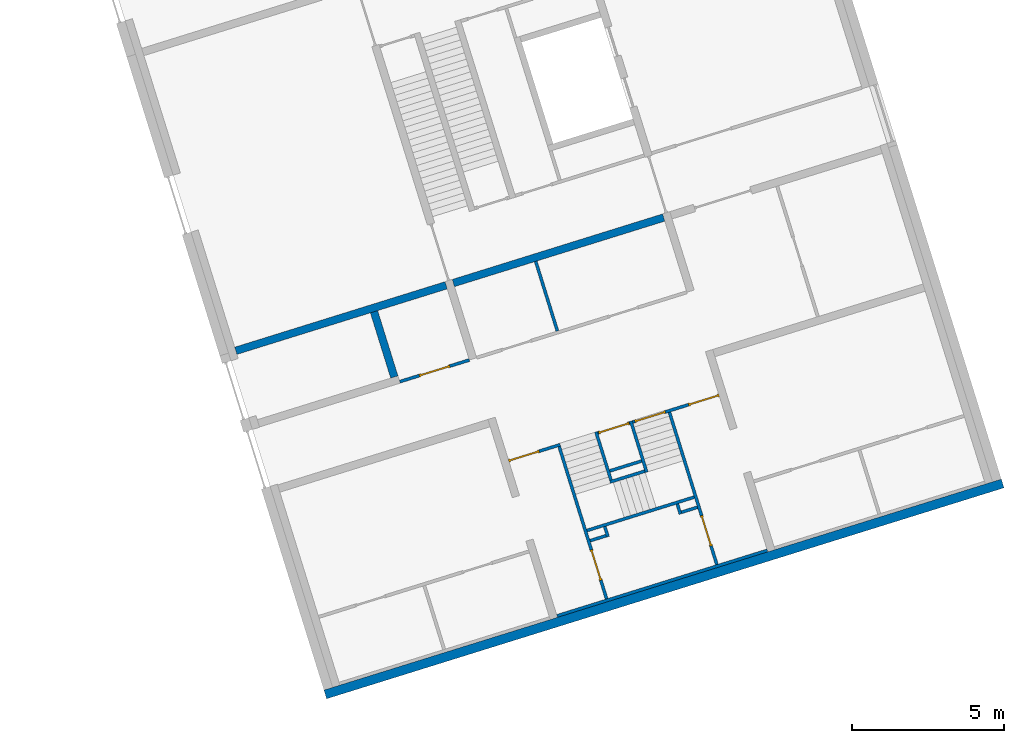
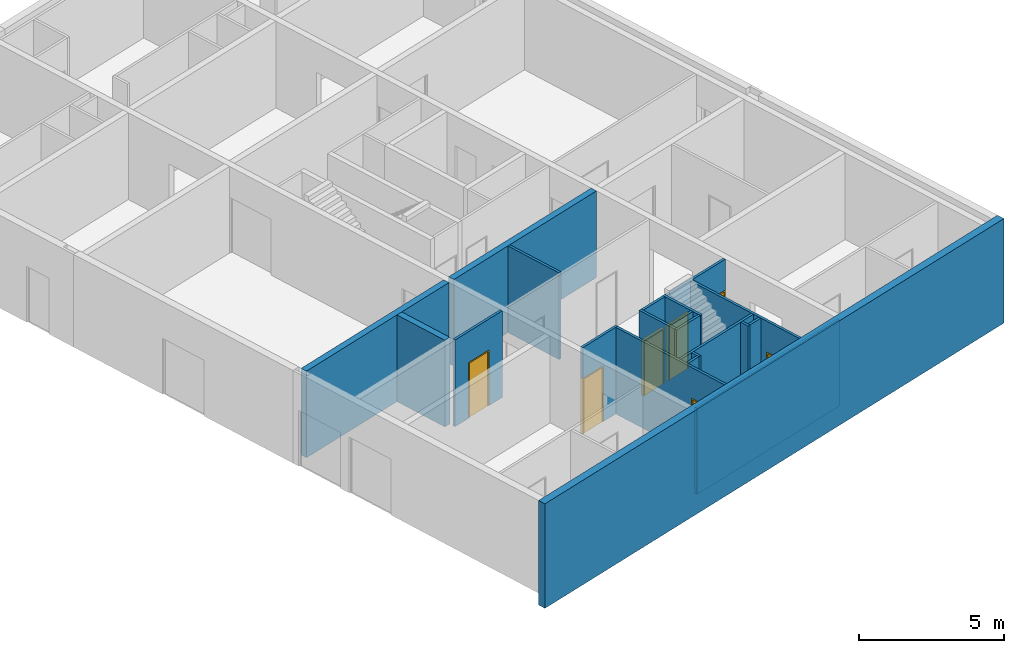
# One storey, part 2 of 10: 21 walls, 7 doors, 9 openings.
"""IFC4 building model written with IfcOpenShell, lengths in metres."""

from ifc_helpers import new_model, entity, si_unit, converted_unit, direction, frame, origin, place, context, subcontext, project, spatial, indexed_curve, outline, extrude, polygons, source, transform, mapped, material, constituent, constituent_set, type_object, type_shapes, element, fill, save


model = new_model("IFC4")

# Units and contexts
model_context = context("Model", 3, precision=1e-05, world=origin(), true_north=direction((6.12323399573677e-17, 1.0)))
body_context = subcontext(model_context, "Body", "Model", "MODEL_VIEW")
ifc_project = project(units=[si_unit("LENGTHUNIT", "METRE"), si_unit("AREAUNIT", "SQUARE_METRE"), converted_unit("PLANEANGLEUNIT", "DEGREE", entity("IfcPlaneAngleMeasure", 0.0174532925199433), si_unit("PLANEANGLEUNIT", "RADIAN"), dimensions=[0, 0, 0, 0, 0, 0, 0]), si_unit("VOLUMEUNIT", "CUBIC_METRE")], contexts=[model_context])

# Site, building, storey
site_placement = place(None, frame((13.1347999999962, 11.9886000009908, 0.0), z_axis=(0.0, 0.0, 1.0), x_axis=(0.954770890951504, 0.297342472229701, 0.0)))
site = spatial("IfcSite", under=ifc_project, at=site_placement, Name="Schiehaven", CompositionType="ELEMENT")
building_placement = place(site_placement, origin())
building = spatial("IfcBuilding", under=site, at=building_placement, Name="VORM huis", CompositionType="ELEMENT")
storey_placement = place(building_placement, origin())
storey = spatial("IfcBuildingStorey", under=building, at=storey_placement, Name="00 begane grond", CompositionType="ELEMENT", Elevation=0.0)

# Walls
ifc_material_1 = material(Name="beton_gewapend_ihw", Category="Miscellaneous")
wall_type_1 = type_object("IfcWallType", Name="Basic Wall:28_WA_skelet_wand 250mm_gen", PredefinedType="STANDARD")
wall_1_placement = place(storey_placement, frame((65.1250000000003, 11.8999999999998, 0.0)))
element("IfcWall", 1, at=wall_1_placement, inside=storey, type_object=wall_type_1, material=ifc_material_1, Name="Constructieve wand", ObjectType="Wand", PredefinedType="NOTDEFINED", context=body_context, shape_type="SweptSolid", body=[
    extrude(outline(indexed_curve([(7.24999999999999, 0.124999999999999), (1.69940164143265e-15, 0.125), (-1.69940164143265e-15, -0.125), (7.24999999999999, -0.125000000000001), (7.24999999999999, 0.124999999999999)], self_intersect=False)), origin(), (0.0, 0.0, 1.0), 3.65),
])
ifc_material_2 = material(Name="ntb_ntb_ntb", Category="Miscellaneous")
wall_type_2 = type_object("IfcWallType", Name="Basic Wall:21_WA_gevel_binnenspouwwand 100mm_gen", PredefinedType="STANDARD")
wall_2_placement = place(storey_placement, frame((65.1250000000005, 0.424999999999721, 0.0)))
element("IfcWall", 2, at=wall_2_placement, inside=storey, type_object=wall_type_2, material=ifc_material_2, Name="Binnenspouwblad", ObjectType="Wand", PredefinedType="NOTDEFINED", context=body_context, shape_type="SweptSolid", body=[
    extrude(outline(indexed_curve([(7.24999999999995, 0.05), (9.8574233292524e-16, 0.05), (-9.8574233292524e-16, -0.05), (7.24999999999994, -0.05), (7.24999999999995, 0.05)], self_intersect=False)), origin(), (0.0, 0.0, 1.0), 3.65),
])
wall_type_3 = type_object("IfcWallType", Name="Basic Wall: 300mm_gen", PredefinedType="STANDARD")
wall_3_placement = place(storey_placement, frame((57.0750000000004, 0.224999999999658, -0.5)))
element("IfcWall", 3, at=wall_3_placement, inside=storey, type_object=wall_type_3, material=ifc_material_2, Name="Gevelwand", ObjectType="Wand", PredefinedType="NOTDEFINED", context=body_context, shape_type="SweptSolid", body=[
    extrude(outline(indexed_curve([(23.3500000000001, 0.15), (2.24820162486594e-15, 0.15), (-2.24820162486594e-15, -0.15), (23.35, -0.15), (23.3500000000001, 0.15)], self_intersect=False)), origin(), (0.0, 0.0, 1.0), 4.4),
])
wall_type_4 = type_object("IfcWallType", Name="Basic Wall:22_WA_afbouw_binnenwand 250mm_gen", PredefinedType="STANDARD")
wall_4_placement = place(storey_placement, frame((64.8750000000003, 11.8999999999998, 0.0), z_axis=(0.0, 0.0, 1.0), x_axis=(-1.0, 0.0, 0.0)))
element("IfcWall", 4, at=wall_4_placement, inside=storey, type_object=wall_type_4, material=ifc_material_2, Name="Binnenwand", ObjectType="Wand", PredefinedType="NOTDEFINED", context=body_context, shape_type="SweptSolid", body=[
    extrude(outline(indexed_curve([(7.24999999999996, 0.124999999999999), (1.80881749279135e-15, 0.125), (-1.80881749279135e-15, -0.125), (7.24999999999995, -0.125000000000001), (7.24999999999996, 0.124999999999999)], self_intersect=False)), origin(), (0.0, 0.0, 1.0), 3.65),
])
wall_5_placement = place(storey_placement, frame((62.3500000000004, 11.7749999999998, 0.0), z_axis=(0.0, 0.0, 1.0), x_axis=(0.0, -1.0, 0.0)))
element("IfcWall", 5, at=wall_5_placement, inside=storey, type_object=wall_type_4, material=ifc_material_2, Name="Binnenwand", ObjectType="Wand", PredefinedType="NOTDEFINED", context=body_context, shape_type="SweptSolid", body=[
    extrude(outline(indexed_curve([(2.24999999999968, 0.124999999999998), (0.0, 0.124999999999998), (0.0, -0.124999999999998), (2.24999999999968, -0.124999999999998), (2.24999999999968, 0.124999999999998)], self_intersect=False)), origin(), (0.0, 0.0, 1.0), 3.65),
])
wall_type_5 = type_object("IfcWallType", Name="Basic Wall:22_WA_afbouw_binnenwand 100mm_gen", PredefinedType="STANDARD")
wall_6_placement = place(storey_placement, frame((66.9000000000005, 2.81500000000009, 0.0)))
element("IfcWall", 6, at=wall_6_placement, inside=storey, type_object=wall_type_5, material=ifc_material_2, Name="Binnenwand", ObjectType="Wand", PredefinedType="NOTDEFINED", context=body_context, shape_type="SweptSolid", body=[
    extrude(outline(indexed_curve([(3.69999999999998, 0.05), (-1.46499921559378e-16, 0.05), (1.46499921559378e-16, -0.05), (3.69999999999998, -0.05), (3.69999999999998, 0.05)], self_intersect=False)), origin(), (0.0, 0.0, 1.0), 3.65),
])
wall_7_placement = place(storey_placement, frame((70.0, 2.41500000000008, 0.0), z_axis=(0.0, 0.0, 1.0), x_axis=(0.0, 1.0, 0.0)))
element("IfcWall", 7, at=wall_7_placement, inside=storey, type_object=wall_type_5, material=ifc_material_2, Name="Binnenwand", ObjectType="Wand", PredefinedType="NOTDEFINED", context=body_context, shape_type="SweptSolid", body=[
    extrude(outline(indexed_curve([(0.35, 0.0499999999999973), (0.0, 0.0499999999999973), (0.0, -0.0499999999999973), (0.35, -0.0499999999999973), (0.35, 0.0499999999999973)], self_intersect=False)), origin(), (0.0, 0.0, 1.0), 3.65),
])
wall_8_placement = place(storey_placement, frame((67.5000000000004, 2.41500000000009, 0.0), z_axis=(0.0, 0.0, 1.0), x_axis=(0.0, 1.0, 0.0)))
element("IfcWall", 8, at=wall_8_placement, inside=storey, type_object=wall_type_5, material=ifc_material_2, Name="Binnenwand", ObjectType="Wand", PredefinedType="NOTDEFINED", context=body_context, shape_type="SweptSolid", body=[
    extrude(outline(indexed_curve([(0.349999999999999, 0.0499999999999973), (0.0, 0.0499999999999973), (0.0, -0.0499999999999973), (0.349999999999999, -0.0499999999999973), (0.349999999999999, 0.0499999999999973)], self_intersect=False)), origin(), (0.0, 0.0, 1.0), 3.65),
])

# Wall, opening, door
wall_9_placement = place(storey_placement, frame((69.3000000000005, 5.77500000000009, 0.0), z_axis=(0.0, 0.0, 1.0), x_axis=(-1.0, 0.0, 0.0)))
wall_9 = element("IfcWall", 9, at=wall_9_placement, inside=storey, type_object=wall_type_5, material=ifc_material_2, Name="Binnenwand", ObjectType="Wand", PredefinedType="NOTDEFINED", context=body_context, shape_type="Tessellation", body=[
    polygons([(1.09999999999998, -0.0499999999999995, 3.65), (5.05822449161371e-17, -0.0499999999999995, 3.65), (5.05822449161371e-17, -0.0499999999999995, 0.0), (0.025000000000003, -0.0499999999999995, 0.0), (0.025000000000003, -0.0499999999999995, 2.34999999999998), (1.07500000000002, -0.0499999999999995, 2.34999999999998), (1.07500000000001, -0.0499999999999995, 0.0), (1.09999999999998, -0.0499999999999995, 0.0), (-2.47726017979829e-16, 0.0500000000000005, 3.65), (1.09999999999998, 0.0500000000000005, 3.65), (1.09999999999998, 0.0500000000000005, 0.0), (1.07500000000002, 0.0500000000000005, 0.0), (1.07500000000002, 0.0500000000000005, 2.34999999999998), (0.0250000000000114, 0.0500000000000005, 2.34999999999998), (0.0250000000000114, 0.0500000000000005, 0.0), (-2.47726017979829e-16, 0.0500000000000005, 0.0)], [[[1, 2, 3, 4, 5, 6, 7, 8]], [[9, 10, 11, 12, 13, 14, 15, 16]], [[3, 16, 15, 4]], [[2, 1, 10, 9]], [[1, 8, 11, 10]], [[3, 2, 9, 16]], [[14, 5, 4, 15]], [[5, 14, 13, 6]], [[6, 13, 12, 7]], [[11, 8, 7, 12]]], closed=True),
])
opening_1_placement = place(wall_9_placement, frame((1.07500000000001, 0.0499999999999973, 0.0)))
opening_1 = element("IfcOpeningElement", 10, at=opening_1_placement, cuts=wall_9, Name="Binnendeur", PredefinedType="OPENING", context=body_context, shape_type="SweptSolid", body=[
    extrude(outline(indexed_curve([(2.34999999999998, 1.05), (0.0, 1.05), (0.0, 0.0), (2.34999999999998, 0.0), (2.34999999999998, 1.05)], self_intersect=False)), frame((0.0, 0.0, 0.0), z_axis=(0.0, -1.0, 0.0), x_axis=(0.0, 0.0, 1.0)), (0.0, 0.0, 1.0), 0.1),
])
ifc_material_3 = material(Name="PD_a_binnenwandopeningen", Category="Miscellaneous")
ifc_constituent_1 = constituent(ifc_material_3, Name="PD_a_binnenwandopeningen", Category="Miscellaneous")
ifc_material_4 = material(Name="metaal_aluminium_ntb", Category="Miscellaneous")
ifc_constituent_2 = constituent(ifc_material_4, Name="metaal_aluminium_ntb", Category="Miscellaneous")
ifc_constituent_set_1 = constituent_set(constituents=[ifc_constituent_1, ifc_constituent_2])
ifc_constituent_3 = constituent(ifc_material_3, Name="PD_a_binnenwandopeningen", Category="Miscellaneous")
ifc_constituent_4 = constituent(ifc_material_4, Name="Panel", Category="Miscellaneous")
ifc_constituent_set_2 = constituent_set(constituents=[ifc_constituent_3, ifc_constituent_4])
door_type_1 = type_object("IfcDoorType", Name="32_DO_binnendeur enkel:binnendeur", OperationType="REVOLVING", PredefinedType="DOOR", material=ifc_constituent_set_2)
shared_shape_1 = source(origin(), body_context, "Body", "SweptSolid", [
    extrude(outline(indexed_curve([(-1.16249999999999, -0.525000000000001), (1.18749999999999, -0.525), (1.18749999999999, 0.525), (-1.16249999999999, 0.525), (-1.16249999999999, 0.475), (1.13749999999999, 0.475), (1.13749999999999, -0.475), (-1.16249999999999, -0.475), (-1.16249999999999, -0.525000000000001)], self_intersect=False)), frame((0.525000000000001, 0.0, 1.16249999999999), z_axis=(0.0, 1.0, 0.0), x_axis=(0.0, 0.0, 1.0)), (0.0, 0.0, 1.0), 0.1),
    extrude(outline(indexed_curve([(-0.025, -0.475), (0.025, -0.475), (0.025, 0.475), (-0.025, 0.475), (-0.025, -0.475)], self_intersect=False)), frame((0.525000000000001, 0.0499999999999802, 0.0), z_axis=(0.0, 0.0, 1.0), x_axis=(0.0, 1.0, 0.0)), (0.0, 0.0, 1.0), 2.29999999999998),
])
type_shapes(door_type_1, [shared_shape_1])
door_1_placement = place(opening_1_placement, frame((0.0, 0.0, 0.0), z_axis=(0.0, 0.0, 1.0), x_axis=(-1.0, 0.0, 0.0)))
door_1 = element("IfcDoor", 11, at=door_1_placement, inside=storey, type_object=door_type_1, material=ifc_constituent_set_1, Name="Binnendeur", ObjectType="Deur", OperationType="REVOLVING", OverallHeight=2.34999999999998, OverallWidth=1.05, PredefinedType="DOOR", context=body_context, shape_type="MappedRepresentation", body=[
    mapped(shared_shape_1, transform((0.0, 0.0, 0.0), scale=1.0)),
])
fill(opening_1, door_1)

# Walls
wall_10_placement = place(storey_placement, frame((69.3500000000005, 4.06500000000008, 0.0), z_axis=(0.0, 0.0, 1.0), x_axis=(0.0, 1.0, 0.0)))
element("IfcWall", 12, at=wall_10_placement, inside=storey, type_object=wall_type_5, material=ifc_material_2, Name="Binnenwand", ObjectType="Wand", PredefinedType="NOTDEFINED", context=body_context, shape_type="SweptSolid", body=[
    extrude(outline(indexed_curve([(1.76000000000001, 0.0499999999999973), (0.0, 0.0499999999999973), (0.0, -0.0499999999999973), (1.76000000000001, -0.0499999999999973), (1.76000000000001, 0.0499999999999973)], self_intersect=False)), origin(), (0.0, 0.0, 1.0), 3.65),
])
wall_11_placement = place(storey_placement, frame((66.9000000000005, 2.46500000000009, 0.0)))
element("IfcWall", 13, at=wall_11_placement, inside=storey, type_object=wall_type_5, material=ifc_material_2, Name="Binnenwand", ObjectType="Wand", PredefinedType="NOTDEFINED", context=body_context, shape_type="SweptSolid", body=[
    extrude(outline(indexed_curve([(0.549999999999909, 0.0500000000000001), (-1.56414140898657e-16, 0.05), (1.56414140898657e-16, -0.0499999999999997), (0.54999999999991, -0.0499999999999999), (0.549999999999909, 0.0500000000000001)], self_intersect=False)), origin(), (0.0, 0.0, 1.0), 3.65),
])

# Wall, opening, door
wall_12_placement = place(storey_placement, frame((65.1250000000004, 5.77500000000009, 0.0)))
wall_12 = element("IfcWall", 14, at=wall_12_placement, inside=storey, type_object=wall_type_5, material=ifc_material_2, Name="Binnenwand", ObjectType="Wand", PredefinedType="NOTDEFINED", context=body_context, shape_type="Tessellation", body=[
    polygons([(1.77500000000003, -0.0499999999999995, 3.65), (1.67500000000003, -0.0500000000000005, 3.65), (-1.22633560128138e-14, -0.0499999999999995, 3.65), (-1.22633560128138e-14, -0.0499999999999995, 2.34999999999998), (1.04999999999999, -0.0500000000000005, 2.34999999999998), (1.04999999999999, -0.0500000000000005, 0.0), (1.67500000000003, -0.0500000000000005, 0.0), (1.77500000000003, -0.0499999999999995, 0.0), (-1.26288807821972e-14, 0.0500000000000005, 3.65), (1.77500000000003, 0.0500000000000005, 3.65), (1.77500000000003, 0.0500000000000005, 0.0), (1.04999999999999, 0.0499999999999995, 0.0), (1.04999999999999, 0.0499999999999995, 2.34999999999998), (-1.26288807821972e-14, 0.0500000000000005, 2.34999999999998)], [[[1, 2, 3, 4, 5, 6, 7, 8]], [[9, 10, 11, 12, 13, 14]], [[11, 8, 7, 6, 12]], [[3, 2, 1, 10, 9]], [[3, 9, 14, 4]], [[1, 8, 11, 10]], [[5, 13, 12, 6]], [[13, 5, 4, 14]]], closed=True),
])
opening_2_placement = place(wall_12_placement, frame((0.0, -0.05, 0.0)))
opening_2 = element("IfcOpeningElement", 15, at=opening_2_placement, cuts=wall_12, Name="Binnendeur", PredefinedType="OPENING", context=body_context, shape_type="SweptSolid", body=[
    extrude(outline(indexed_curve([(2.34999999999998, 1.05), (0.0, 1.05), (0.0, 1.30022810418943e-31), (2.34999999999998, 1.30022810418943e-31), (2.34999999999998, 1.05)], self_intersect=False)), frame((0.0, 0.0, 0.0), z_axis=(0.0, 1.0, 0.0), x_axis=(0.0, 0.0, 1.0)), (0.0, 0.0, 1.0), 0.1),
])
ifc_constituent_5 = constituent(ifc_material_3, Name="PD_a_binnenwandopeningen", Category="Miscellaneous")
ifc_constituent_6 = constituent(ifc_material_4, Name="metaal_aluminium_ntb", Category="Miscellaneous")
ifc_constituent_set_3 = constituent_set(constituents=[ifc_constituent_5, ifc_constituent_6])
door_2_placement = place(opening_2_placement, origin())
door_2 = element("IfcDoor", 16, at=door_2_placement, inside=storey, type_object=door_type_1, material=ifc_constituent_set_3, Name="Binnendeur", ObjectType="Deur", OperationType="REVOLVING", OverallHeight=2.34999999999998, OverallWidth=1.05, PredefinedType="DOOR", context=body_context, shape_type="MappedRepresentation", body=[
    mapped(shared_shape_1, transform((0.0, 0.0, 0.0), scale=1.0)),
])
fill(opening_2, door_2)

# Wall, openings, door
wall_13_placement = place(storey_placement, frame((66.8500000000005, 5.72500000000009, 0.0), z_axis=(0.0, 0.0, 1.0), x_axis=(0.0, -1.0, 0.0)))
wall_13 = element("IfcWall", 17, at=wall_13_placement, inside=storey, type_object=wall_type_5, material=ifc_material_2, Name="Binnenwand", ObjectType="Wand", PredefinedType="NOTDEFINED", context=body_context, shape_type="Tessellation", body=[
    polygons([(0.0, -0.050000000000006, 0.0), (3.56, -0.050000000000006, 0.0), (3.56, -0.050000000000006, 2.34999999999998), (4.61, -0.050000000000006, 2.34999999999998), (4.61, -0.050000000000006, 0.0), (5.25000000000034, -0.050000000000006, 0.0), (5.25000000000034, -0.050000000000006, 3.65), (0.0, -0.050000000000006, 3.65), (3.56, 0.0499999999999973, 2.34999999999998), (3.56, 0.0499999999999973, 0.0), (3.31, 0.0499999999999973, 0.0), (3.21, 0.0499999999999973, 0.0), (2.96, 0.0499999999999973, 0.0), (2.86, 0.0499999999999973, 0.0), (0.0, 0.0499999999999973, 0.0), (0.0, 0.0499999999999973, 3.65), (2.86, 0.0499999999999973, 3.65), (2.96, 0.0499999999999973, 3.65), (3.21, 0.0499999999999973, 3.65), (3.31, 0.0499999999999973, 3.65), (5.25000000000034, 0.0499999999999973, 3.65), (5.25000000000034, 0.0499999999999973, 0.0), (4.61, 0.0499999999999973, 0.0), (4.61, 0.0499999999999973, 2.34999999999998)], [[[1, 2, 3, 4, 5, 6, 7, 8]], [[9, 10, 11, 12, 13, 14, 15, 16, 17, 18, 19, 20, 21, 22, 23, 24]], [[15, 14, 13, 12, 11, 10, 2, 1]], [[7, 6, 22, 21]], [[8, 7, 21, 20, 19, 18, 17, 16]], [[1, 8, 16, 15]], [[5, 4, 24, 23]], [[3, 2, 10, 9]], [[4, 3, 9, 24]], [[23, 22, 6, 5]]], closed=True),
])
opening_3_placement = place(wall_13_placement, frame((4.61, 0.050000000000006, 0.0)))
opening_3 = element("IfcOpeningElement", 18, at=opening_3_placement, cuts=wall_13, Name="Binnendeur", PredefinedType="OPENING", context=body_context, shape_type="SweptSolid", body=[
    extrude(outline(indexed_curve([(2.34999999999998, 0.0), (2.34999999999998, 1.05), (0.0, 1.05), (0.0, 0.0), (2.34999999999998, 0.0)], self_intersect=False)), frame((0.0, 0.0, 0.0), z_axis=(0.0, -1.0, 0.0), x_axis=(0.0, 0.0, 1.0)), (0.0, 0.0, 1.0), 0.1),
])
opening_4_placement = place(wall_13_placement, frame((5.72500000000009, -66.8500000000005, 0.0), z_axis=(0.0, 0.0, 1.0), x_axis=(0.0, 1.0, 0.0)))
element("IfcOpeningElement", 19, at=opening_4_placement, cuts=wall_13, Name="Binnendeur", PredefinedType="OPENING", context=body_context, shape_type="SweptSolid", body=[
    extrude(outline(indexed_curve([(-1.17499999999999, -0.525000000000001), (1.17499999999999, -0.525000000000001), (1.17499999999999, 0.525), (-1.17499999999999, 0.525), (-1.17499999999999, -0.525000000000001)], self_intersect=False)), frame((65.3760000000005, 1.64000000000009, 1.17499999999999), z_axis=(1.0, 0.0, 0.0), x_axis=(0.0, 0.0, -1.0)), (0.0, 0.0, 1.0), 3.048),
])
ifc_constituent_7 = constituent(ifc_material_3, Name="PD_a_binnenwandopeningen", Category="Miscellaneous")
ifc_constituent_8 = constituent(ifc_material_4, Name="metaal_aluminium_ntb", Category="Miscellaneous")
ifc_constituent_set_4 = constituent_set(constituents=[ifc_constituent_7, ifc_constituent_8])
ifc_constituent_9 = constituent(ifc_material_3, Name="PD_a_binnenwandopeningen", Category="Miscellaneous")
ifc_constituent_10 = constituent(ifc_material_4, Name="Panel", Category="Miscellaneous")
ifc_constituent_set_5 = constituent_set(constituents=[ifc_constituent_9, ifc_constituent_10])
door_type_2 = type_object("IfcDoorType", Name="32_DO_binnendeur enkel:binnendeur", OperationType="REVOLVING", PredefinedType="DOOR", material=ifc_constituent_set_5)
shared_shape_2 = source(origin(), body_context, "Body", "SweptSolid", [
    extrude(outline(indexed_curve([(0.475, -1.16249999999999), (0.525, -1.16249999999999), (0.525, 1.18749999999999), (-0.525, 1.18749999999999), (-0.525, -1.16249999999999), (-0.475, -1.16249999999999), (-0.475, 1.13749999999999), (0.475, 1.13749999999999), (0.475, -1.16249999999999)], self_intersect=False)), frame((0.525000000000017, 0.100000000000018, 1.16249999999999), z_axis=(0.0, -1.0, 0.0), x_axis=(1.0, 0.0, 0.0)), (0.0, 0.0, 1.0), 0.1),
    extrude(outline(indexed_curve([(-0.475, -0.025), (0.475, -0.025), (0.475, 0.025), (-0.475, 0.025), (-0.475, -0.025)], self_intersect=False)), frame((0.525000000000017, 0.0499999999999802, 0.0)), (0.0, 0.0, 1.0), 2.29999999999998),
])
type_shapes(door_type_2, [shared_shape_2])
door_3_placement = place(opening_3_placement, frame((0.0, 0.0, 0.0), z_axis=(0.0, 0.0, 1.0), x_axis=(-1.0, 0.0, 0.0)))
door_3 = element("IfcDoor", 20, at=door_3_placement, inside=storey, type_object=door_type_2, material=ifc_constituent_set_4, Name="Binnendeur", ObjectType="Deur", OperationType="REVOLVING", OverallHeight=2.34999999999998, OverallWidth=1.05, PredefinedType="DOOR", context=body_context, shape_type="MappedRepresentation", body=[
    mapped(shared_shape_2, transform((0.0, 0.0, 0.0), scale=1.0)),
])
fill(opening_3, door_3)

# Wall, openings, doors
wall_14_placement = place(storey_placement, frame((72.3750000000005, 5.77500000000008, 0.0), z_axis=(0.0, 0.0, 1.0), x_axis=(-1.0, 0.0, 0.0)))
wall_14 = element("IfcWall", 21, at=wall_14_placement, inside=storey, type_object=wall_type_5, material=ifc_material_2, Name="Binnenwand", ObjectType="Wand", PredefinedType="NOTDEFINED", context=body_context, shape_type="Tessellation", body=[
    polygons([(2.90000000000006, -0.0500000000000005, 2.34999999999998), (2.90000000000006, -0.0500000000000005, 0.0), (2.97500000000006, -0.0500000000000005, 0.0), (2.97500000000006, -0.0500000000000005, 3.65), (-1.17703915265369e-14, -0.0499999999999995, 3.65), (-1.17703915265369e-14, -0.0499999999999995, 2.34999999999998), (1.04999999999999, -0.0500000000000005, 2.34999999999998), (1.04999999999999, -0.0500000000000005, 0.0), (1.85000000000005, -0.0499999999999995, 0.0), (1.85000000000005, -0.0499999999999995, 2.34999999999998), (2.97500000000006, 0.0499999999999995, 0.0), (2.90000000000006, 0.0499999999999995, 0.0), (2.90000000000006, 0.0499999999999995, 2.34999999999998), (1.85000000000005, 0.0500000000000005, 2.34999999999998), (1.85000000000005, 0.0500000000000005, 0.0), (1.77500000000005, 0.0500000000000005, 0.0), (1.67500000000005, 0.0500000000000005, 0.0), (1.04999999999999, 0.0499999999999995, 0.0), (1.04999999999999, 0.0499999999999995, 2.34999999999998), (-1.17170446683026e-14, 0.0500000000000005, 2.34999999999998), (-1.17170446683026e-14, 0.0500000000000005, 3.65), (1.67500000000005, 0.0500000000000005, 3.65), (1.77500000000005, 0.0500000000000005, 3.65), (2.97500000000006, 0.0499999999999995, 3.65)], [[[1, 2, 3, 4, 5, 6, 7, 8, 9, 10]], [[11, 12, 13, 14, 15, 16, 17, 18, 19, 20, 21, 22, 23, 24]], [[9, 8, 18, 17, 16, 15]], [[5, 4, 24, 23, 22, 21]], [[5, 21, 20, 6]], [[7, 19, 18, 8]], [[19, 7, 6, 20]], [[4, 3, 11, 24]], [[15, 14, 10, 9]], [[13, 12, 2, 1]], [[14, 13, 1, 10]], [[3, 2, 12, 11]]], closed=True),
])
opening_5_placement = place(wall_14_placement, frame((1.05, 0.0500000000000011, 0.0)))
opening_5 = element("IfcOpeningElement", 22, at=opening_5_placement, cuts=wall_14, Name="Binnendeur", PredefinedType="OPENING", context=body_context, shape_type="SweptSolid", body=[
    extrude(outline(indexed_curve([(2.34999999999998, 2.97863977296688e-31), (2.34999999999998, 1.05), (0.0, 1.05), (0.0, 2.97863977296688e-31), (2.34999999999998, 2.97863977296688e-31)], self_intersect=False)), frame((0.0, 0.0, 0.0), z_axis=(0.0, -1.0, 0.0), x_axis=(0.0, 0.0, 1.0)), (0.0, 0.0, 1.0), 0.1),
])
opening_6_placement = place(wall_14_placement, frame((2.90000000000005, 0.0500000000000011, 0.0)))
opening_6 = element("IfcOpeningElement", 23, at=opening_6_placement, cuts=wall_14, Name="Binnendeur", PredefinedType="OPENING", context=body_context, shape_type="SweptSolid", body=[
    extrude(outline(indexed_curve([(2.34999999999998, 1.05), (0.0, 1.05), (0.0, 2.97863977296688e-31), (2.34999999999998, 2.97863977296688e-31), (2.34999999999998, 1.05)], self_intersect=False)), frame((0.0, 0.0, 0.0), z_axis=(0.0, -1.0, 0.0), x_axis=(0.0, 0.0, 1.0)), (0.0, 0.0, 1.0), 0.1),
])
ifc_constituent_11 = constituent(ifc_material_3, Name="PD_a_binnenwandopeningen", Category="Miscellaneous")
ifc_constituent_12 = constituent(ifc_material_4, Name="metaal_aluminium_ntb", Category="Miscellaneous")
ifc_constituent_set_6 = constituent_set(constituents=[ifc_constituent_11, ifc_constituent_12])
door_4_placement = place(opening_5_placement, frame((0.0, 0.0, 0.0), z_axis=(0.0, 0.0, 1.0), x_axis=(-1.0, 0.0, 0.0)))
door_4 = element("IfcDoor", 24, at=door_4_placement, inside=storey, type_object=door_type_2, material=ifc_constituent_set_6, Name="Binnendeur", ObjectType="Deur", OperationType="REVOLVING", OverallHeight=2.34999999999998, OverallWidth=1.05, PredefinedType="DOOR", context=body_context, shape_type="MappedRepresentation", body=[
    mapped(shared_shape_2, transform((0.0, 0.0, 0.0), scale=1.0)),
])
fill(opening_5, door_4)
ifc_constituent_13 = constituent(ifc_material_3, Name="PD_a_binnenwandopeningen", Category="Miscellaneous")
ifc_constituent_14 = constituent(ifc_material_4, Name="metaal_aluminium_ntb", Category="Miscellaneous")
ifc_constituent_set_7 = constituent_set(constituents=[ifc_constituent_13, ifc_constituent_14])
door_5_placement = place(opening_6_placement, frame((0.0, 0.0, 0.0), z_axis=(0.0, 0.0, 1.0), x_axis=(-1.0, 0.0, 0.0)))
door_5 = element("IfcDoor", 25, at=door_5_placement, inside=storey, type_object=door_type_1, material=ifc_constituent_set_7, Name="Binnendeur", ObjectType="Deur", OperationType="REVOLVING", OverallHeight=2.34999999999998, OverallWidth=1.05, PredefinedType="DOOR", context=body_context, shape_type="MappedRepresentation", body=[
    mapped(shared_shape_1, transform((0.0, 0.0, 0.0), scale=1.0)),
])
fill(opening_6, door_5)

# Wall, openings, door
wall_15_placement = place(storey_placement, frame((70.6500000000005, 5.72500000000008, 0.0), z_axis=(0.0, 0.0, 1.0), x_axis=(0.0, -1.0, 0.0)))
wall_15 = element("IfcWall", 26, at=wall_15_placement, inside=storey, type_object=wall_type_5, material=ifc_material_2, Name="Binnenwand", ObjectType="Wand", PredefinedType="NOTDEFINED", context=body_context, shape_type="Tessellation", body=[
    polygons([(0.0, -0.0500000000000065, 0.0), (2.86, -0.0500000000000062, 0.0), (2.96, -0.0500000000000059, 0.0), (3.21, -0.0500000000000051, 0.0), (3.31, -0.0500000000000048, 0.0), (3.56, -0.0499999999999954, 0.0), (3.56, -0.0499999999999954, 2.34999999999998), (4.61, -0.0500000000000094, 2.34999999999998), (4.61, -0.0500000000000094, 0.0), (5.25000000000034, -0.0500000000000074, 0.0), (5.25000000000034, -0.0500000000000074, 3.65), (3.31, -0.0500000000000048, 3.65), (3.21, -0.0500000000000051, 3.65), (2.96, -0.0500000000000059, 3.65), (2.86, -0.0500000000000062, 3.65), (0.0, -0.0500000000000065, 3.65), (3.56, 0.0499999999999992, 2.34999999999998), (3.56, 0.0499999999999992, 0.0), (0.0, 0.0499999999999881, 0.0), (0.0, 0.0499999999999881, 3.65), (5.25000000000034, 0.0499999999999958, 3.65), (5.25000000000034, 0.0499999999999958, 0.0), (4.61, 0.0499999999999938, 0.0), (4.61, 0.0499999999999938, 2.34999999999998)], [[[1, 2, 3, 4, 5, 6, 7, 8, 9, 10, 11, 12, 13, 14, 15, 16]], [[17, 18, 19, 20, 21, 22, 23, 24]], [[19, 18, 6, 5, 4, 3, 2, 1]], [[11, 10, 22, 21]], [[16, 15, 14, 13, 12, 11, 21, 20]], [[9, 8, 24, 23]], [[7, 6, 18, 17]], [[8, 7, 17, 24]], [[1, 16, 20, 19]], [[23, 22, 10, 9]]], closed=True),
])
opening_7_placement = place(wall_15_placement, frame((3.56, -0.0499999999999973, 0.0)))
opening_7 = element("IfcOpeningElement", 27, at=opening_7_placement, cuts=wall_15, Name="Binnendeur", PredefinedType="OPENING", context=body_context, shape_type="SweptSolid", body=[
    extrude(outline(indexed_curve([(2.34999999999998, 1.05), (0.0, 1.05), (0.0, 0.0), (2.34999999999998, 0.0), (2.34999999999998, 1.05)], self_intersect=False)), frame((0.0, 0.0, 0.0), z_axis=(0.0, 1.0, 0.0), x_axis=(0.0, 0.0, 1.0)), (0.0, 0.0, 1.0), 0.1),
])
opening_8_placement = place(wall_15_placement, frame((5.72500000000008, -70.6500000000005, 0.0), z_axis=(0.0, 0.0, 1.0), x_axis=(0.0, 1.0, 0.0)))
element("IfcOpeningElement", 28, at=opening_8_placement, cuts=wall_15, Name="Binnendeur", PredefinedType="OPENING", context=body_context, shape_type="SweptSolid", body=[
    extrude(outline(indexed_curve([(-1.17499999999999, -0.525), (1.17499999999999, -0.525000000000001), (1.17499999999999, 0.525000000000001), (-1.17499999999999, 0.525000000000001), (-1.17499999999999, -0.525)], self_intersect=False)), frame((69.0760000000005, 1.64000000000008, 1.17499999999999), z_axis=(1.0, 0.0, 0.0), x_axis=(0.0, 0.0, -1.0)), (0.0, 0.0, 1.0), 3.048),
])
ifc_constituent_15 = constituent(ifc_material_3, Name="PD_a_binnenwandopeningen", Category="Miscellaneous")
ifc_constituent_16 = constituent(ifc_material_4, Name="metaal_aluminium_ntb", Category="Miscellaneous")
ifc_constituent_set_8 = constituent_set(constituents=[ifc_constituent_15, ifc_constituent_16])
door_6_placement = place(opening_7_placement, origin())
door_6 = element("IfcDoor", 29, at=door_6_placement, inside=storey, type_object=door_type_1, material=ifc_constituent_set_8, Name="Binnendeur", ObjectType="Deur", OperationType="REVOLVING", OverallHeight=2.34999999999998, OverallWidth=1.05, PredefinedType="DOOR", context=body_context, shape_type="MappedRepresentation", body=[
    mapped(shared_shape_1, transform((0.0, 0.0, 0.0), scale=1.0)),
])
fill(opening_7, door_6)

# Walls
wall_16_placement = place(storey_placement, frame((68.1000000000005, 4.11500000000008, 0.0)))
element("IfcWall", 30, at=wall_16_placement, inside=storey, type_object=wall_type_5, material=ifc_material_2, Name="Binnenwand", ObjectType="Wand", PredefinedType="NOTDEFINED", context=body_context, shape_type="SweptSolid", body=[
    extrude(outline(indexed_curve([(1.19999999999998, 0.0500000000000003), (-1.46499921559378e-16, 0.05), (1.46499921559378e-16, -0.05), (1.19999999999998, -0.0499999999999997), (1.19999999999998, 0.0500000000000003)], self_intersect=False)), origin(), (0.0, 0.0, 1.0), 3.65),
])
wall_17_placement = place(storey_placement, frame((68.1500000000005, 5.82500000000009, 0.0), z_axis=(0.0, 0.0, 1.0), x_axis=(0.0, -1.0, 0.0)))
element("IfcWall", 31, at=wall_17_placement, inside=storey, type_object=wall_type_5, material=ifc_material_2, Name="Binnenwand", ObjectType="Wand", PredefinedType="NOTDEFINED", context=body_context, shape_type="SweptSolid", body=[
    extrude(outline(indexed_curve([(1.66000000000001, 0.0499999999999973), (0.0, 0.0499999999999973), (0.0, -0.0499999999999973), (1.66000000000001, -0.0499999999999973), (1.66000000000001, 0.0499999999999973)], self_intersect=False)), origin(), (0.0, 0.0, 1.0), 3.65),
])
wall_18_placement = place(storey_placement, frame((68.2000000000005, 4.46500000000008, 0.0)))
element("IfcWall", 32, at=wall_18_placement, inside=storey, type_object=wall_type_5, material=ifc_material_2, Name="Binnenwand", ObjectType="Wand", PredefinedType="NOTDEFINED", context=body_context, shape_type="SweptSolid", body=[
    extrude(outline(indexed_curve([(1.09999999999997, 0.05), (-1.46499921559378e-16, 0.05), (1.46499921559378e-16, -0.05), (1.09999999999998, -0.05), (1.09999999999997, 0.05)], self_intersect=False)), origin(), (0.0, 0.0, 1.0), 3.65),
])
wall_19_placement = place(storey_placement, frame((70.0500000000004, 2.46500000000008, 0.0)))
element("IfcWall", 33, at=wall_19_placement, inside=storey, type_object=wall_type_5, material=ifc_material_2, Name="Binnenwand", ObjectType="Wand", PredefinedType="NOTDEFINED", context=body_context, shape_type="SweptSolid", body=[
    extrude(outline(indexed_curve([(0.550000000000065, 0.0500000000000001), (-1.56414140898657e-16, 0.05), (1.56414140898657e-16, -0.05), (0.550000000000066, -0.0499999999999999), (0.550000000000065, 0.0500000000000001)], self_intersect=False)), origin(), (0.0, 0.0, 1.0), 3.65),
])
wall_20_placement = place(storey_placement, frame((67.9250000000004, 9.37500000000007, 0.0), z_axis=(0.0, 0.0, 1.0), x_axis=(0.0, 1.0, 0.0)))
element("IfcWall", 34, at=wall_20_placement, inside=storey, type_object=wall_type_5, material=ifc_material_2, Name="Binnenwand", ObjectType="Wand", PredefinedType="NOTDEFINED", context=body_context, shape_type="SweptSolid", body=[
    extrude(outline(indexed_curve([(2.39999999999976, 0.0499999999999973), (0.0, 0.0499999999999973), (0.0, -0.0499999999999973), (2.39999999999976, -0.0499999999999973), (2.39999999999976, 0.0499999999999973)], self_intersect=False)), origin(), (0.0, 0.0, 1.0), 3.65),
])

# Wall, opening, door
wall_21_placement = place(storey_placement, frame((62.4750000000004, 9.32500000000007, 0.0)))
wall_21 = element("IfcWall", 35, at=wall_21_placement, inside=storey, type_object=wall_type_5, material=ifc_material_2, Name="Binnenwand", ObjectType="Wand", PredefinedType="NOTDEFINED", context=body_context, shape_type="Tessellation", body=[
    polygons([(1.72499999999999, -0.0499999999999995, 2.34999999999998), (1.72499999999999, -0.0499999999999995, 0.0), (2.39999999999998, -0.0500000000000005, 0.0), (2.39999999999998, -0.0500000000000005, 3.65), (1.25981559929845e-15, -0.0500000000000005, 3.65), (1.25981559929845e-15, -0.0500000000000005, 0.0), (0.674999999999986, -0.0500000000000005, 0.0), (0.674999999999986, -0.0500000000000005, 2.34999999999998), (2.39999999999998, 0.0499999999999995, 0.0), (1.72499999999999, 0.0499999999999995, 0.0), (1.72499999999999, 0.0499999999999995, 2.34999999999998), (0.674999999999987, 0.0499999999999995, 2.34999999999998), (0.674999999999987, 0.0499999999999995, 0.0), (1.46020039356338e-15, 0.0499999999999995, 0.0), (1.46020039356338e-15, 0.0499999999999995, 3.65), (2.39999999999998, 0.0499999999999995, 3.65)], [[[1, 2, 3, 4, 5, 6, 7, 8]], [[9, 10, 11, 12, 13, 14, 15, 16]], [[7, 6, 14, 13]], [[4, 3, 9, 16]], [[5, 4, 16, 15]], [[6, 5, 15, 14]], [[13, 12, 8, 7]], [[11, 10, 2, 1]], [[12, 11, 1, 8]], [[3, 2, 10, 9]]], closed=True),
])
opening_9_placement = place(wall_21_placement, frame((1.725, 0.0500000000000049, 0.0)))
opening_9 = element("IfcOpeningElement", 36, at=opening_9_placement, cuts=wall_21, Name="Binnendeur", PredefinedType="OPENING", context=body_context, shape_type="SweptSolid", body=[
    extrude(outline(indexed_curve([(2.34999999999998, 1.05), (0.0, 1.05), (0.0, 0.0), (2.34999999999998, 0.0), (2.34999999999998, 1.05)], self_intersect=False)), frame((0.0, 0.0, 0.0), z_axis=(0.0, -1.0, 0.0), x_axis=(0.0, 0.0, 1.0)), (0.0, 0.0, 1.0), 0.1),
])
ifc_constituent_17 = constituent(ifc_material_3, Name="PD_a_binnenwandopeningen", Category="Miscellaneous")
ifc_constituent_18 = constituent(ifc_material_4, Name="metaal_aluminium_ntb", Category="Miscellaneous")
ifc_constituent_set_9 = constituent_set(constituents=[ifc_constituent_17, ifc_constituent_18])
door_7_placement = place(opening_9_placement, frame((0.0, 0.0, 0.0), z_axis=(0.0, 0.0, 1.0), x_axis=(-1.0, 0.0, 0.0)))
door_7 = element("IfcDoor", 37, at=door_7_placement, inside=storey, type_object=door_type_1, material=ifc_constituent_set_9, Name="Binnendeur", ObjectType="Deur", OperationType="REVOLVING", OverallHeight=2.34999999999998, OverallWidth=1.05, PredefinedType="DOOR", context=body_context, shape_type="MappedRepresentation", body=[
    mapped(shared_shape_1, transform((0.0, 0.0, 0.0), scale=1.0)),
])
fill(opening_9, door_7)

save(model, "model.ifc")
